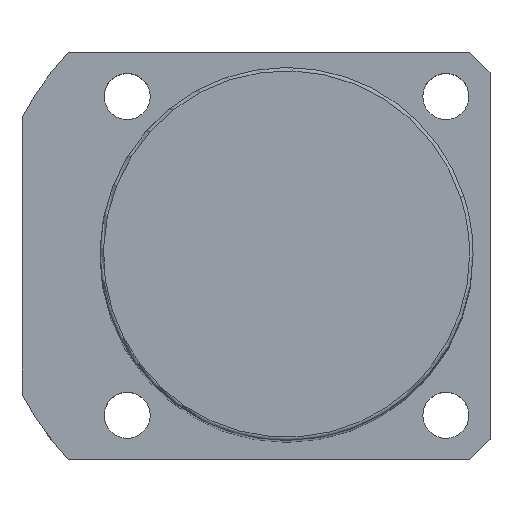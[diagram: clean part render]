
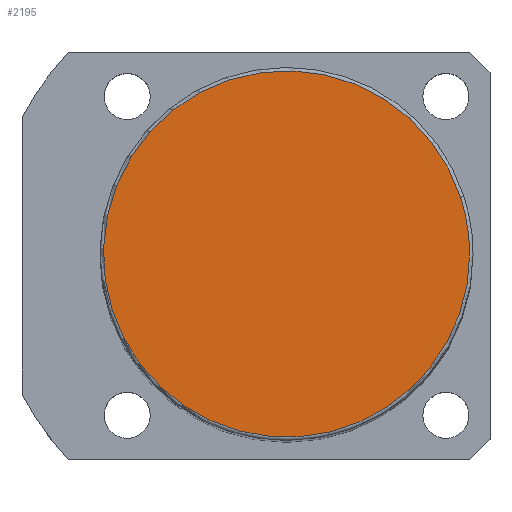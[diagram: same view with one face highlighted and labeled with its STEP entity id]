
A CAD part, top view. The second image highlights one B-rep face of the part: STEP entity #2195.
In plain terms, the highlighted planar face has unit normal (0, 0, 1).
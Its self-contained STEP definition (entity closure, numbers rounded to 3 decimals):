
#2128=CARTESIAN_POINT('',(25.679,8.343,171.0));
#2129=VERTEX_POINT('',#2128);
#2147=CARTESIAN_POINT('',(-25.679,-8.343,171.0));
#2148=VERTEX_POINT('',#2147);
#2156=CARTESIAN_POINT('',(0.0,0.0,171.0));
#2157=DIRECTION('',(0.0,0.0,1.0));
#2158=DIRECTION('',(1.0,0.0,0.0));
#2159=AXIS2_PLACEMENT_3D('',#2156,#2157,#2158);
#2160=CIRCLE('',#2159,27.0);
#2161=EDGE_CURVE('no 2192',#2129,#2148,#2160,.T.);
#2171=CARTESIAN_POINT('',(27.0,0.0,171.0));
#2172=VERTEX_POINT('',#2171);
#2173=CARTESIAN_POINT('',(0.0,0.0,171.0));
#2174=DIRECTION('',(0.0,0.0,1.0));
#2175=DIRECTION('',(1.0,0.0,0.0));
#2176=AXIS2_PLACEMENT_3D('',#2173,#2174,#2175);
#2177=CIRCLE('',#2176,27.0);
#2178=EDGE_CURVE('no 2201',#2172,#2129,#2177,.T.);
#2179=ORIENTED_EDGE('',*,*,#2178,.T.);
#2180=ORIENTED_EDGE('',*,*,#2161,.T.);
#2181=CARTESIAN_POINT('',(0.0,0.0,171.0));
#2182=DIRECTION('',(0.0,0.0,1.0));
#2183=DIRECTION('',(1.0,0.0,0.0));
#2184=AXIS2_PLACEMENT_3D('',#2181,#2182,#2183);
#2185=CIRCLE('',#2184,27.0);
#2186=EDGE_CURVE('no 2207',#2148,#2172,#2185,.T.);
#2187=ORIENTED_EDGE('',*,*,#2186,.T.);
#2188=EDGE_LOOP('',(#2179,#2180,#2187));
#2189=FACE_OUTER_BOUND('',#2188,.T.);
#2190=CARTESIAN_POINT('',(0.0,0.0,171.0));
#2191=DIRECTION('',(0.0,0.0,1.0));
#2192=DIRECTION('',(1.0,0.0,0.0));
#2193=AXIS2_PLACEMENT_3D('',#2190,#2191,#2192);
#2194=PLANE('',#2193);
#2195=ADVANCED_FACE('no 2194',(#2189),#2194,.T.);
